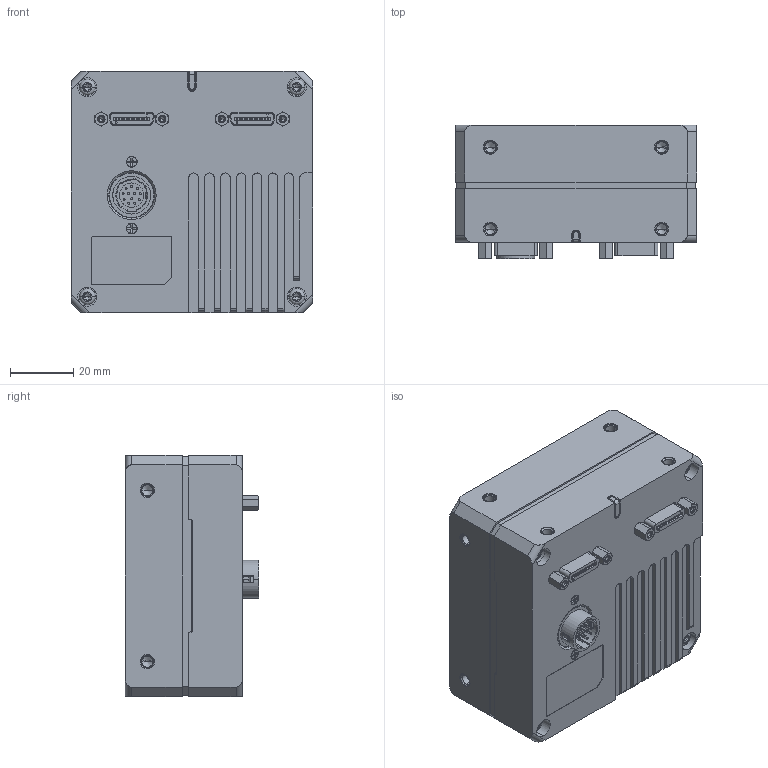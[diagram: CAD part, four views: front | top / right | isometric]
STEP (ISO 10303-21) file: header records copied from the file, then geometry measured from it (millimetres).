
FILE_DESCRIPTION((''),'2;1');
FILE_NAME('16K-ALL-2_ASM','2022-03-04T13:42:09',('mafangning'),(''),'CREO PARAMETRIC BY PTC INC, 2020044','CREO PARAMETRIC BY PTC INC, 2020044','');
FILE_SCHEMA(('CONFIG_CONTROL_DESIGN'));
Products named in the file (23): DA-14-004248; DE-19-001578; 101236243_ASM; DE-14-015253; 101303143_2; HR10A-10R-12PB__2; DE-11-003273_31_2; 101302212_2; LED-LIGHT_24_2; 101235054_2_ASM; DE-14-015256; _2000; SC-KM2X4B_2; SC-P0M2X5B-GB818_2; SC-PM3X17T10L5-BNI-SUS_2; ST-S4X5-M2X6-F2X4-B_2; DE-19-000836_2; DE-19-001534; DE-19-001422; MV-20249REV10-202110091655_ASM_ASM; _0001; 101237203_ASM; 16K-ALL-2_ASM
Assembly tree (33 placements, depth 3):
  16K-ALL-2_ASM
    DA-14-004248
    101236243_ASM
      DE-19-001578
    DE-14-015253
    101235054_2_ASM
      101303143_2  x2
      HR10A-10R-12PB__2
      DE-11-003273_31_2
      101302212_2
      LED-LIGHT_24_2
    DE-14-015256
    _2000
    SC-KM2X4B_2  x2
    SC-P0M2X5B-GB818_2
    SC-PM3X17T10L5-BNI-SUS_2  x4
    ST-S4X5-M2X6-F2X4-B_2  x4
    DE-19-000836_2  x2
    DE-19-001534  x2
    DE-19-001422
    MV-20249REV10-202110091655_ASM_ASM
    _0001
    101237203_ASM
      DE-19-001578
Bounding box: 76 x 42.14 x 76 mm (x, y, z)
Volume: 67465.9 mm3; surface area: 74460.1 mm2
Topology: 29 solids, 92 shells, 3721 faces, 10106 edges, 6563 vertices
Faces by surface type: plane 2204, cylinder 1189, cone 186, bspline 74, torus 32, extrusion 32, sphere 4
Entity records: 95990 total; most frequent: CARTESIAN_POINT 19910, DIRECTION 15774, ORIENTED_EDGE 15652, EDGE_CURVE 8014, VECTOR 5394, LINE 5380, VERTEX_POINT 5245, AXIS2_PLACEMENT_3D 5190
